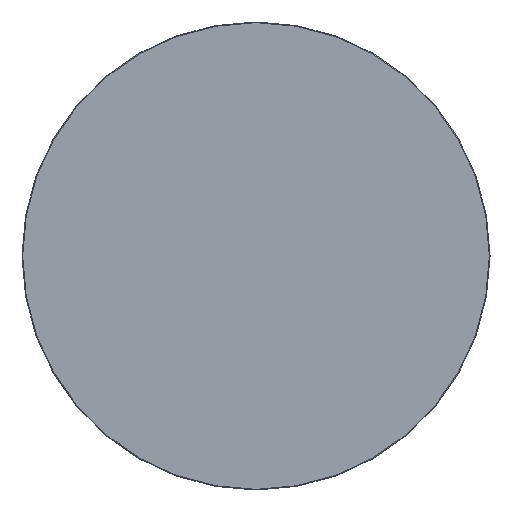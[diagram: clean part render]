
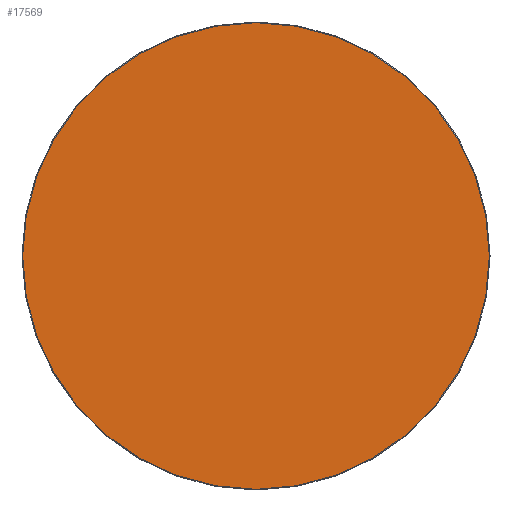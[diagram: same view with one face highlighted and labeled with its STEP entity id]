
A CAD part, top view. The second image highlights one B-rep face of the part: STEP entity #17569.
In plain terms, the highlighted planar face has unit normal (0, 0, 1).
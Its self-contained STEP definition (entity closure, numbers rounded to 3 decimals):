
#17494=CARTESIAN_POINT('',(0.,0.,20.));
#17495=DIRECTION('',(1.,0.,0.));
#17496=DIRECTION('',(0.,0.,1.));
#17497=AXIS2_PLACEMENT_3D('',#17494,#17496,#17495);
#17498=PLANE('',#17497);
#17499=CARTESIAN_POINT('',(-0.5,-498.5,20.));
#17500=VERTEX_POINT('',#17499);
#17501=CARTESIAN_POINT('',(0.5,-498.5,20.));
#17502=VERTEX_POINT('',#17501);
#17503=CARTESIAN_POINT('',(-0.5,-498.5,20.));
#17504=DIRECTION('',(1.,0.,0.));
#17505=VECTOR('',#17504,1.);
#17506=LINE('',#17503,#17505);
#17507=EDGE_CURVE('',#17500,#17502,#17506,.T.);
#17508=ORIENTED_EDGE('E105',*,*,#17507,.T.);
#17509=CARTESIAN_POINT('',(498.5,-0.5,20.));
#17510=VERTEX_POINT('',#17509);
#17511=CARTESIAN_POINT('',(0.5,-0.5,20.));
#17512=DIRECTION('',(0.,-1.,0.));
#17513=DIRECTION('',(0.,-0.,1.));
#17514=AXIS2_PLACEMENT_3D('',#17511,#17513,#17512);
#17515=CIRCLE('',#17514,498.);
#17516=EDGE_CURVE('',#17502,#17510,#17515,.T.);
#17517=ORIENTED_EDGE('E107',*,*,#17516,.T.);
#17518=CARTESIAN_POINT('',(498.5,0.5,20.));
#17519=VERTEX_POINT('',#17518);
#17520=CARTESIAN_POINT('',(498.5,-0.5,20.));
#17521=DIRECTION('',(0.,1.,0.));
#17522=VECTOR('',#17521,1.);
#17523=LINE('',#17520,#17522);
#17524=EDGE_CURVE('',#17510,#17519,#17523,.T.);
#17525=ORIENTED_EDGE('E109',*,*,#17524,.T.);
#17526=CARTESIAN_POINT('',(0.5,498.5,20.));
#17527=VERTEX_POINT('',#17526);
#17528=CARTESIAN_POINT('',(0.5,0.5,20.));
#17529=DIRECTION('',(1.,0.,0.));
#17530=DIRECTION('',(0.,0.,1.));
#17531=AXIS2_PLACEMENT_3D('',#17528,#17530,#17529);
#17532=CIRCLE('',#17531,498.);
#17533=EDGE_CURVE('',#17519,#17527,#17532,.T.);
#17534=ORIENTED_EDGE('E111',*,*,#17533,.T.);
#17535=CARTESIAN_POINT('',(-0.5,498.5,20.));
#17536=VERTEX_POINT('',#17535);
#17537=CARTESIAN_POINT('',(0.5,498.5,20.));
#17538=DIRECTION('',(-1.,0.,0.));
#17539=VECTOR('',#17538,1.);
#17540=LINE('',#17537,#17539);
#17541=EDGE_CURVE('',#17527,#17536,#17540,.T.);
#17542=ORIENTED_EDGE('E113',*,*,#17541,.T.);
#17543=CARTESIAN_POINT('',(-498.5,0.5,20.));
#17544=VERTEX_POINT('',#17543);
#17545=CARTESIAN_POINT('',(-0.5,0.5,20.));
#17546=DIRECTION('',(0.,1.,0.));
#17547=DIRECTION('',(0.,0.,1.));
#17548=AXIS2_PLACEMENT_3D('',#17545,#17547,#17546);
#17549=CIRCLE('',#17548,498.);
#17550=EDGE_CURVE('',#17536,#17544,#17549,.T.);
#17551=ORIENTED_EDGE('E115',*,*,#17550,.T.);
#17552=CARTESIAN_POINT('',(-498.5,-0.5,20.));
#17553=VERTEX_POINT('',#17552);
#17554=CARTESIAN_POINT('',(-498.5,0.5,20.));
#17555=DIRECTION('',(0.,-1.,0.));
#17556=VECTOR('',#17555,1.);
#17557=LINE('',#17554,#17556);
#17558=EDGE_CURVE('',#17544,#17553,#17557,.T.);
#17559=ORIENTED_EDGE('E117',*,*,#17558,.T.);
#17560=CARTESIAN_POINT('',(-0.5,-0.5,20.));
#17561=DIRECTION('',(-1.,0.,0.));
#17562=DIRECTION('',(0.,0.,1.));
#17563=AXIS2_PLACEMENT_3D('',#17560,#17562,#17561);
#17564=CIRCLE('',#17563,498.);
#17565=EDGE_CURVE('',#17553,#17500,#17564,.T.);
#17566=ORIENTED_EDGE('E119',*,*,#17565,.T.);
#17567=EDGE_LOOP('',(#17508,#17517,#17525,#17534,#17542,#17551,#17559,#17566));
#17568=FACE_OUTER_BOUND('',#17567,.T.);
#17569=ADVANCED_FACE('F2',(#17568),#17498,.T.);
